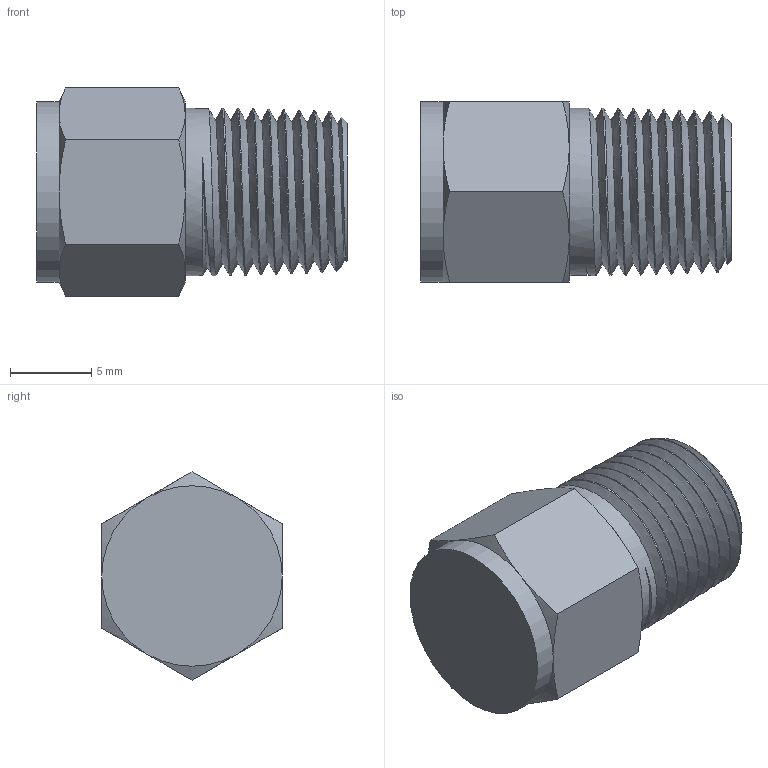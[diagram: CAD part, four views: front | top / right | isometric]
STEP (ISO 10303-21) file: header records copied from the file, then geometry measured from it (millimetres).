
FILE_DESCRIPTION(/* description */ ('starvars output'),/* implementation_level */ '2;1');
FILE_NAME(/* name */ 'C:\Users\Justin\Documents\CAD\The Sensor Connection\Temperature Sensors\Thermocouple Accessories\Bung Plugs\BNG-PLUG-18-NPT.stp',/* time_stamp */ '2021-12-23T13:42:23-05:00',/* author */ ('Justin'),/* organization */ ('Thomas Industrial Network Germany GmbH'),/* preprocessor_version */ 'ST-DEVELOPER v18.1',/* originating_system */ 'Autodesk Inventor 2022',/* authorisation */ 'unknown authorization');
FILE_SCHEMA (('AUTOMOTIVE_DESIGN { 1 0 10303 214 3 1 1 }'));
Length unit declared in the file: inch
Products named in the file (1): BNG-PLUG-18-NPT
Bounding box: 19.1 x 11.1 x 12.82 mm (x, y, z)
Volume: 1671.8 mm3; surface area: 1054.5 mm2
Topology: 1 solids, 1 shells, 39 faces, 94 edges, 58 vertices
Faces by surface type: cone 23, plane 9, cylinder 4, bspline 3
Full cylindrical faces by diameter (mm): 10.287 x1, 11.1 x1
Entity records: 4990 total; most frequent: CARTESIAN_POINT 4150, ORIENTED_EDGE 188, DIRECTION 136, EDGE_CURVE 94, VERTEX_POINT 58, AXIS2_PLACEMENT_3D 58, EDGE_LOOP 40, FACE_OUTER_BOUND 39
